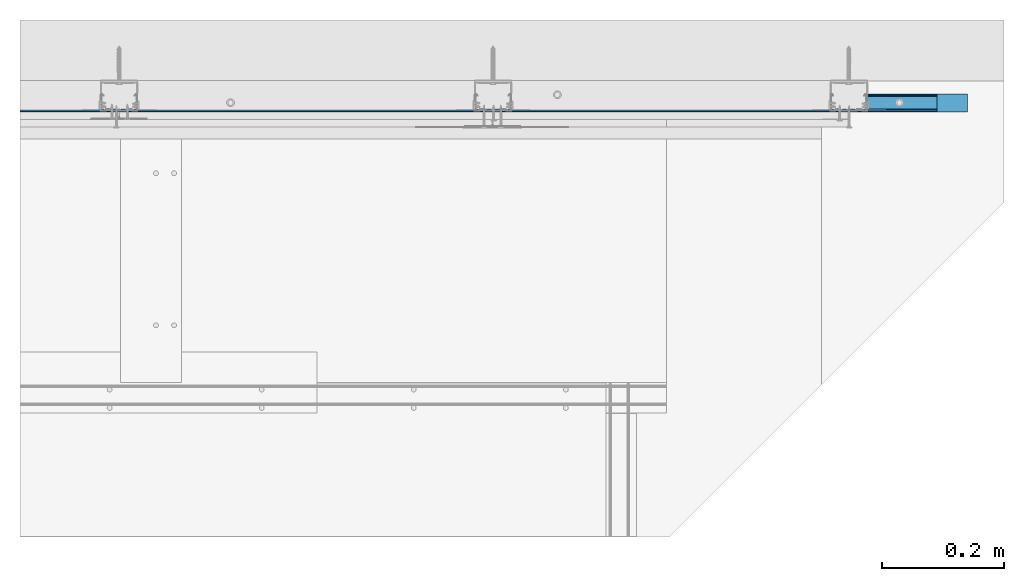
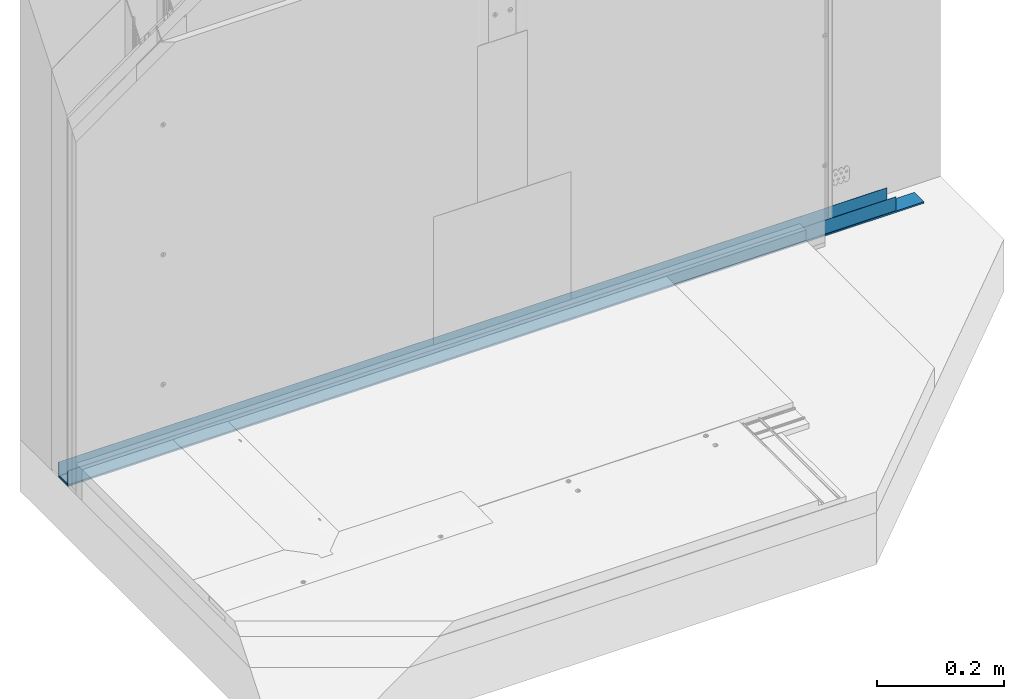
# One storey, part 15 of 47: 2 walls.
"""IFC2X3 building model written with IfcOpenShell, lengths in millimetres."""

import ifcopenshell
import ifcopenshell.guid

model = None  # the IFC model being written
_history = None  # IfcOwnerHistory: only IFC2X3 demands one
_inside = {}  # id of a spatial element -> (the spatial element, [elements in it])
_under = {}  # id of a project, library or spatial element -> (it, [spatial elements below it])
_declared = {}  # id of a project -> (the project, [libraries it declares])
_typed = {}  # id of a type object -> (the type object, [elements of that type])
_made_of = {}  # id of a material, layer set ... -> (it, [elements and type objects made of it])


def new_model(schema):
    """Start an empty IFC model of exactly this schema.

    Asked for "IFC4X3", IfcOpenShell would pick the latest addendum, in which some entities
    have other attributes; the version numbers below select the first issue.
    IFC2X3 requires an IfcOwnerHistory on every rooted entity: one is made here for all.
    """
    global model, _history
    if schema == "IFC4X3":
        model = ifcopenshell.file(schema_version=(4, 3, 0, 0))
    else:
        model = ifcopenshell.file(schema=schema)
    _inside.clear()
    _under.clear()
    _declared.clear()
    _typed.clear()
    _made_of.clear()
    _history = None
    if model.schema == "IFC2X3":
        org = make("IfcOrganization", Name="unknown")
        user = make(
            "IfcPersonAndOrganization",
            ThePerson=make("IfcPerson", FamilyName="unknown"),
            TheOrganization=org,
        )
        app = make(
            "IfcApplication",
            ApplicationDeveloper=org,
            Version="unknown",
            ApplicationFullName="unknown",
            ApplicationIdentifier="unknown",
        )
        _history = make(
            "IfcOwnerHistory",
            OwningUser=user,
            OwningApplication=app,
            ChangeAction="ADDED",
            CreationDate=0,
        )
    return model


def make(cls, **values):
    """One entity of the class cls with the attributes given. An attribute that is None is left unset."""
    return model.create_entity(
        cls, **{name: value for name, value in values.items() if value is not None}
    )


def entity(cls, *values):
    """Any entity or typed value of the class cls, its attributes in the order of the schema. None: left unset."""
    e = model.create_entity(cls)
    for i, value in enumerate(values):
        if value is not None:
            e[i] = value
    return e


def rooted(cls, **values):
    """An entity with a GlobalId (a new one), such as an element, a storey or a relation."""
    return make(cls, GlobalId=ifcopenshell.guid.new(), OwnerHistory=_history, **values)


def si_unit(unit_type, name, prefix=None):
    """IfcSIUnit, for example si_unit("LENGTHUNIT", "METRE", prefix="MILLI")."""
    return make("IfcSIUnit", UnitType=unit_type, Prefix=prefix, Name=name)


def converted_unit(unit_type, name, factor, base, dimensions=None, offset=None):
    """IfcConversionBasedUnit, such as the inch: factor (a typed value) times the base unit."""
    return make(
        "IfcConversionBasedUnit"
        if offset is None
        else "IfcConversionBasedUnitWithOffset",
        ConversionOffset=offset,
        Dimensions=None
        if dimensions is None
        else entity("IfcDimensionalExponents", *dimensions),
        UnitType=unit_type,
        Name=name,
        ConversionFactor=make(
            "IfcMeasureWithUnit", ValueComponent=factor, UnitComponent=base
        ),
    )


def assignment(units):
    """IfcUnitAssignment: the units of a project."""
    return None if units is None else make("IfcUnitAssignment", Units=units)


def point(xyz):
    """IfcCartesianPoint."""
    return None if xyz is None else make("IfcCartesianPoint", Coordinates=xyz)


def direction(xyz):
    """IfcDirection."""
    return None if xyz is None else make("IfcDirection", DirectionRatios=xyz)


def frame(location, z_axis=None, x_axis=None):
    """IfcAxis2Placement3D, a coordinate frame: its origin and axes. An axis left out is left unset."""
    return make(
        "IfcAxis2Placement3D",
        Location=point(location),
        Axis=direction(z_axis),
        RefDirection=direction(x_axis),
    )


def origin():
    """The frame at (0, 0, 0) with its axes left unset."""
    return frame((0.0, 0.0, 0.0))


def origin_with_axes():
    """The frame at (0, 0, 0) with the z axis (0, 0, 1) and the x axis (1, 0, 0) written out."""
    return frame((0.0, 0.0, 0.0), z_axis=(0.0, 0.0, 1.0), x_axis=(1.0, 0.0, 0.0))


def place(relative_to, where):
    """IfcLocalPlacement: puts the frame where relative to a parent placement (None: the world)."""
    return make(
        "IfcLocalPlacement", PlacementRelTo=relative_to, RelativePlacement=where
    )


def context(
    kind, dimensions, precision=None, world=None, true_north=None, identifier=None
):
    """IfcGeometricRepresentationContext, for example the 3D "Model" context."""
    return make(
        "IfcGeometricRepresentationContext",
        ContextIdentifier=identifier,
        ContextType=kind,
        CoordinateSpaceDimension=dimensions,
        Precision=precision,
        WorldCoordinateSystem=world,
        TrueNorth=true_north,
    )


def project(units=None, contexts=None):
    """IfcProject with its units and contexts."""
    return rooted(
        "IfcProject",
        Name="project",
        RepresentationContexts=contexts,
        UnitsInContext=assignment(units),
    )


def spatial(cls, under=None, at=None, **own):
    """A site, building, storey or space (cls), placed at a placement, below another one or the project."""
    s = rooted(cls, ObjectPlacement=at, **own)
    if under is not None:
        _under.setdefault(under.id(), (under, []))[1].append(s)
    return s


def faces_of(points, faces, orient=None, outer=None):
    """IfcFace entities. A face is a list of loops; a loop is a list of indices into points, from 0.

    orient and outer hold one flag for each loop. By default every Orientation is true, the
    first loop of a face is its IfcFaceOuterBound and the others are IfcFaceBound.
    """
    made = []
    for i, loops in enumerate(faces):
        bounds = []
        for j, loop in enumerate(loops):
            is_outer = j == 0 if outer is None else outer[i][j]
            bounds.append(
                make(
                    "IfcFaceOuterBound" if is_outer else "IfcFaceBound",
                    Bound=make("IfcPolyLoop", Polygon=[points[k] for k in loop]),
                    Orientation=True if orient is None else orient[i][j],
                )
            )
        made.append(make("IfcFace", Bounds=bounds))
    return made


def faceted_brep(points, faces, orient=None, outer=None, voids=None):
    """IfcFacetedBrep: a solid bounded by flat faces; with voids (closed shells), ...WithVoids."""
    shared = [point(p) for p in points]
    hull = make("IfcClosedShell", CfsFaces=faces_of(shared, faces, orient, outer))
    if voids is None:
        return make("IfcFacetedBrep", Outer=hull)
    return make(
        "IfcFacetedBrepWithVoids",
        Outer=hull,
        Voids=[
            make(cls, CfsFaces=faces_of(shared, fs, o, b)) for cls, fs, o, b in voids
        ],
    )


def shape(context_of_items, identifier, shape_type, items):
    """IfcShapeRepresentation: the items that make up one representation, for example the "Body"."""
    return make(
        "IfcShapeRepresentation",
        ContextOfItems=context_of_items,
        RepresentationIdentifier=identifier,
        RepresentationType=shape_type,
        Items=items,
    )


def made_of(thing, what):
    """Note that an element or type object is made of a material, layer set ...; save() writes the relation."""
    if what is not None:
        _made_of.setdefault(what.id(), (what, []))[1].append(thing)
    return thing


def element(
    cls,
    number,
    at=None,
    inside=None,
    cuts=None,
    type_object=None,
    material=None,
    context=None,
    identifier="Body",
    shape_type=None,
    held_by="IfcProductDefinitionShape",
    body=None,
    shapes=None,
    **own,
):
    """One element of the class cls, such as IfcWall. Its Tag is "e" and its number.

    at: its placement. inside: the storey or other place that contains it. cuts: it is an
    opening in that element (IfcRelVoidsElement). A single representation is given by context,
    identifier, shape_type and body (its items); several are given by shapes. held_by: the class
    of the entity that holds the representations. save() writes the other relations.
    """
    e = rooted(cls, Tag="e%d" % number, ObjectPlacement=at, **own)
    if body is not None:
        shapes = [shape(context, identifier, shape_type, body)]
    if shapes is not None:
        e.Representation = make(held_by, Representations=shapes)
    if inside is not None:
        _inside.setdefault(inside.id(), (inside, []))[1].append(e)
    if cuts is not None:
        rooted(
            "IfcRelVoidsElement", RelatingBuildingElement=cuts, RelatedOpeningElement=e
        )
    if type_object is not None:
        _typed.setdefault(type_object.id(), (type_object, []))[1].append(e)
    return made_of(e, material)


def aggregate(whole, parts):
    """IfcRelAggregates: a whole, such as a stair, and the parts it consists of."""
    return rooted("IfcRelAggregates", RelatingObject=whole, RelatedObjects=parts)


def save(model, path):
    """Write the relations noted so far, then the file.

    IfcRelAggregates (storeys below a building ...), IfcRelContainedInSpatialStructure (elements
    in a storey), IfcRelDefinesByType, IfcRelAssociatesMaterial and IfcRelDeclares: one each for
    every whole, place, type object, material and project.
    """
    for whole, parts in _under.values():
        aggregate(whole, parts)
    for where, things in _inside.values():
        rooted(
            "IfcRelContainedInSpatialStructure",
            RelatedElements=things,
            RelatingStructure=where,
        )
    for kind, things in _typed.values():
        rooted("IfcRelDefinesByType", RelatedObjects=things, RelatingType=kind)
    for what, things in _made_of.values():
        rooted("IfcRelAssociatesMaterial", RelatedObjects=things, RelatingMaterial=what)
    for by, libraries in _declared.values():
        rooted("IfcRelDeclares", RelatingContext=by, RelatedDefinitions=libraries)
    model.write(path)


model = new_model("IFC2X3")

# Units and contexts
model_context = context("Model", 3, precision=1e-05, world=origin(), true_north=direction((0.0, 1.0, 0.0)))
ifc_project = project(units=[si_unit("LENGTHUNIT", "METRE", prefix="MILLI"), si_unit("AREAUNIT", "SQUARE_METRE"), si_unit("VOLUMEUNIT", "CUBIC_METRE"), converted_unit("PLANEANGLEUNIT", "DEGREE", entity("IfcPlaneAngleMeasure", 0.01745), si_unit("PLANEANGLEUNIT", "RADIAN"), dimensions=[0, 0, 0, 0, 0, 0, 0]), si_unit("SOLIDANGLEUNIT", "STERADIAN"), si_unit("MASSUNIT", "GRAM"), si_unit("TIMEUNIT", "SECOND"), si_unit("THERMODYNAMICTEMPERATUREUNIT", "DEGREE_CELSIUS"), si_unit("LUMINOUSINTENSITYUNIT", "LUMEN")], contexts=[model_context])

# Site, building, storey
site_placement = place(None, origin_with_axes())
site = spatial("IfcSite", under=ifc_project, at=site_placement, Name="Default Site", CompositionType="ELEMENT")
building_placement = place(site_placement, origin_with_axes())
building = spatial("IfcBuilding", under=site, at=building_placement, Name="Default Building", CompositionType="ELEMENT")
storey_placement = place(building_placement, origin_with_axes())
storey = spatial("IfcBuildingStorey", under=building, at=storey_placement, Name="Default Building Storey", CompositionType="ELEMENT", Elevation=0.0)

# Walls
wall_1_placement = place(storey_placement, frame((5001.187254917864, 3469.792279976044, -108.5909742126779), z_axis=(-6.754789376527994e-14, -6.858158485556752e-13, 1.0), x_axis=(-1.0, -1.816065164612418e-15, -8.596431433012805e-14)))
element("IfcWall", 1, at=wall_1_placement, inside=storey, Name="Profil RIGIPS UD30 ULTRASTIL®", context=model_context, shape_type="Brep", body=[
    faceted_brep([(2876.162121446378, 1469.916032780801, 140.9749999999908), (2876.162121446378, 1469.366032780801, 140.9749999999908), (2876.162121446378, 1469.366032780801, 114.774999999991), (2876.162121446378, 1469.375882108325, 114.6498524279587), (2876.162121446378, 1469.405187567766, 114.5277864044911), (2876.162121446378, 1469.453227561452, 114.4118076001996), (2876.162121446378, 1469.518819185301, 114.3047717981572), (2876.162121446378, 1469.600347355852, 114.2093145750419), (2876.162121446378, 1469.695804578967, 114.1277864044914), (2876.162121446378, 1469.80284038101, 114.0621947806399), (2876.162121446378, 1469.918819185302, 114.0141547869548), (2876.162121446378, 1470.04088520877, 113.9848493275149), (2876.162121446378, 1470.166032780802, 113.9749999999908), (2876.162121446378, 1472.016032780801, 113.9749999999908), (2876.162121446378, 1472.163550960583, 113.9887186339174), (2876.162121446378, 1472.3060097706, 114.0294040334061), (2876.162121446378, 1472.438523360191, 114.0956608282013), (2876.162121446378, 1472.55654696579, 114.1852166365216), (2876.162121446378, 1472.6560327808, 114.2949999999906), (2876.162121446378, 1473.676032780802, 115.6549999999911), (2876.162121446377, 1473.775518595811, 115.7647833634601), (2876.162121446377, 1473.893542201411, 115.8543391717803), (2876.162121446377, 1474.026055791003, 115.9205959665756), (2876.162121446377, 1474.16851460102, 115.9612813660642), (2876.162121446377, 1474.316032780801, 115.9749999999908), (2876.162121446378, 1493.616032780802, 115.9749999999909), (2876.162121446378, 1493.763550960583, 115.9612813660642), (2876.162121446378, 1493.906009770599, 115.9205959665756), (2876.162121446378, 1494.03852336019, 115.8543391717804), (2876.162121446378, 1494.15654696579, 115.7647833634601), (2876.162121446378, 1494.256032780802, 115.6549999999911), (2876.162121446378, 1495.276032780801, 114.2949999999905), (2876.162121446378, 1495.375518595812, 114.1852166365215), (2876.162121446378, 1495.493542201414, 114.0956608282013), (2876.162121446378, 1495.626055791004, 114.0294040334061), (2876.162121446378, 1495.76851460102, 113.9887186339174), (2876.162121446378, 1495.916032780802, 113.9749999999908), (2876.162121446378, 1497.766032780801, 113.9749999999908), (2876.162121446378, 1497.891180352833, 113.9848493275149), (2876.162121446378, 1498.013246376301, 114.0141547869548), (2876.162121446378, 1498.129225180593, 114.0621947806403), (2876.162121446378, 1498.236260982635, 114.127786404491), (2876.162121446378, 1498.33171820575, 114.2093145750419), (2876.162121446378, 1498.413246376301, 114.3047717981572), (2876.162121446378, 1498.478838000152, 114.4118076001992), (2876.162121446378, 1498.526877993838, 114.5277864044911), (2876.162121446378, 1498.556183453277, 114.6498524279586), (2876.162121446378, 1498.566032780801, 114.774999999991), (2876.162121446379, 1498.566032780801, 140.9749999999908), (2876.162121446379, 1498.0160327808, 140.9749999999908), (2876.162121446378, 1498.0160327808, 114.774999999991), (2876.162121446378, 1498.012954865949, 114.7358913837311), (2876.162121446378, 1498.003796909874, 114.6977457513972), (2876.162121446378, 1497.988784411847, 114.661502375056), (2876.162121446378, 1497.968287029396, 114.6280536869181), (2876.162121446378, 1497.942809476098, 114.5982233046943), (2876.162121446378, 1497.912979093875, 114.5727457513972), (2876.162121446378, 1497.879530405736, 114.5522483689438), (2876.162121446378, 1497.843287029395, 114.5372358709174), (2876.162121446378, 1497.805141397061, 114.528077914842), (2876.162121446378, 1497.766032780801, 114.524999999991), (2876.162121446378, 1495.916032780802, 114.524999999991), (2876.162121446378, 1495.86993334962, 114.5292870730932), (2876.162121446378, 1495.82541497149, 114.5420012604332), (2876.162121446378, 1495.784004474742, 114.562706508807), (2876.162121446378, 1495.747122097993, 114.5906926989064), (2876.162121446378, 1495.716032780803, 114.6249999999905), (2876.162121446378, 1494.696032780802, 115.9849999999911), (2876.162121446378, 1494.528150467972, 116.1702594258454), (2876.162121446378, 1494.32898563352, 116.3213848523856), (2876.162121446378, 1494.105368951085, 116.4331931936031), (2876.162121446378, 1493.864969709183, 116.5018498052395), (2876.162121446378, 1493.616032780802, 116.5249999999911), (2876.162121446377, 1474.316032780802, 116.524999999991), (2876.162121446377, 1474.06709585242, 116.5018498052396), (2876.162121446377, 1473.826696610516, 116.4331931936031), (2876.162121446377, 1473.603079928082, 116.3213848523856), (2876.162121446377, 1473.403915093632, 116.1702594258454), (2876.162121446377, 1473.236032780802, 115.984999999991), (2876.162121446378, 1472.216032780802, 114.6249999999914), (2876.162121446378, 1472.184943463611, 114.5906926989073), (2876.162121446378, 1472.14806108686, 114.562706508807), (2876.162121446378, 1472.106650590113, 114.5420012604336), (2876.162121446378, 1472.062132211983, 114.5292870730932), (2876.162121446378, 1472.016032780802, 114.524999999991), (2876.162121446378, 1470.166032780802, 114.524999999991), (2876.162121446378, 1470.126924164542, 114.528077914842), (2876.162121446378, 1470.088778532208, 114.5372358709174), (2876.162121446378, 1470.052535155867, 114.5522483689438), (2876.162121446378, 1470.019086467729, 114.5727457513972), (2876.162121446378, 1469.989256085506, 114.5982233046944), (2876.162121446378, 1469.963778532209, 114.6280536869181), (2876.162121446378, 1469.943281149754, 114.661502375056), (2876.162121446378, 1469.928268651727, 114.6977457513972), (2876.162121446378, 1469.919110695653, 114.7358913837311), (2876.162121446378, 1469.916032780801, 114.774999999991), (1368.501210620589, 1469.366032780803, 114.7750000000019), (1368.50121062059, 1469.366032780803, 140.9750000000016), (1368.50121062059, 1469.916032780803, 140.9750000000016), (1368.501210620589, 1469.916032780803, 114.7750000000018), (1368.501210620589, 1469.919110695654, 114.7358913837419), (1368.501210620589, 1469.92826865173, 114.697745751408), (1368.501210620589, 1469.943281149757, 114.6615023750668), (1368.501210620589, 1469.963778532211, 114.6280536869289), (1368.501210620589, 1469.989256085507, 114.5982233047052), (1368.501210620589, 1470.019086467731, 114.572745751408), (1368.501210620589, 1470.052535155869, 114.5522483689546), (1368.501210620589, 1470.08877853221, 114.5372358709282), (1368.501210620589, 1470.126924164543, 114.5280779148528), (1368.501210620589, 1470.166032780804, 114.5250000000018), (1368.501210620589, 1472.016032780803, 114.5250000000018), (1368.501210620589, 1472.062132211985, 114.5292870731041), (1368.501210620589, 1472.106650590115, 114.5420012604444), (1368.501210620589, 1472.148061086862, 114.5627065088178), (1368.501210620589, 1472.184943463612, 114.5906926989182), (1368.501210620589, 1472.216032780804, 114.6250000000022), (1368.501210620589, 1473.236032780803, 115.9850000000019), (1368.501210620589, 1473.403915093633, 116.1702594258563), (1368.50121062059, 1473.603079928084, 116.3213848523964), (1368.50121062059, 1473.826696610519, 116.4331931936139), (1368.50121062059, 1474.067095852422, 116.5018498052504), (1368.50121062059, 1474.316032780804, 116.5250000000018), (1368.50121062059, 1493.616032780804, 116.5250000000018), (1368.50121062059, 1493.864969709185, 116.5018498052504), (1368.50121062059, 1494.105368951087, 116.4331931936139), (1368.50121062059, 1494.328985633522, 116.3213848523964), (1368.501210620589, 1494.528150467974, 116.1702594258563), (1368.501210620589, 1494.696032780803, 115.9850000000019), (1368.501210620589, 1495.716032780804, 114.6250000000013), (1368.501210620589, 1495.747122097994, 114.5906926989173), (1368.501210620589, 1495.784004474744, 114.5627065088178), (1368.501210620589, 1495.825414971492, 114.542001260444), (1368.501210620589, 1495.869933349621, 114.529287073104), (1368.501210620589, 1495.916032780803, 114.5250000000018), (1368.501210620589, 1497.766032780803, 114.5250000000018), (1368.501210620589, 1497.805141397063, 114.5280779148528), (1368.501210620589, 1497.843287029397, 114.5372358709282), (1368.501210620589, 1497.879530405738, 114.5522483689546), (1368.501210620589, 1497.912979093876, 114.572745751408), (1368.501210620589, 1497.9428094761, 114.5982233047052), (1368.501210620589, 1497.968287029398, 114.6280536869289), (1368.501210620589, 1497.98878441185, 114.6615023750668), (1368.501210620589, 1498.003796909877, 114.697745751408), (1368.501210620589, 1498.012954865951, 114.7358913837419), (1368.501210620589, 1498.016032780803, 114.7750000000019), (1368.50121062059, 1498.016032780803, 140.9750000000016), (1368.50121062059, 1498.566032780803, 140.9750000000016), (1368.501210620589, 1498.566032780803, 114.7750000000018), (1368.501210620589, 1498.556183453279, 114.6498524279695), (1368.501210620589, 1498.526877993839, 114.5277864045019), (1368.501210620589, 1498.478838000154, 114.41180760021), (1368.501210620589, 1498.413246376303, 114.304771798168), (1368.501210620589, 1498.331718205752, 114.2093145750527), (1368.501210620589, 1498.236260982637, 114.1277864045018), (1368.501210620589, 1498.129225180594, 114.0621947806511), (1368.501210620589, 1498.013246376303, 114.0141547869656), (1368.501210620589, 1497.891180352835, 113.9848493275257), (1368.501210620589, 1497.766032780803, 113.9750000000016), (1368.501210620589, 1495.916032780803, 113.9750000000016), (1368.501210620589, 1495.768514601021, 113.9887186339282), (1368.501210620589, 1495.626055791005, 114.0294040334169), (1368.501210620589, 1495.493542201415, 114.0956608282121), (1368.501210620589, 1495.375518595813, 114.1852166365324), (1368.501210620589, 1495.276032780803, 114.2950000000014), (1368.501210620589, 1494.256032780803, 115.6550000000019), (1368.501210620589, 1494.156546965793, 115.7647833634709), (1368.501210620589, 1494.038523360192, 115.8543391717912), (1368.501210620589, 1493.906009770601, 115.9205959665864), (1368.501210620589, 1493.763550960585, 115.9612813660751), (1368.501210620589, 1493.616032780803, 115.9750000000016), (1368.501210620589, 1474.316032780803, 115.9750000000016), (1368.501210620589, 1474.168514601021, 115.9612813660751), (1368.501210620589, 1474.026055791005, 115.9205959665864), (1368.501210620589, 1473.893542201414, 115.8543391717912), (1368.501210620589, 1473.775518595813, 115.7647833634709), (1368.501210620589, 1473.676032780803, 115.655000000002), (1368.501210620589, 1472.656032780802, 114.2950000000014), (1368.501210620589, 1472.556546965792, 114.1852166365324), (1368.501210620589, 1472.438523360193, 114.0956608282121), (1368.501210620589, 1472.306009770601, 114.0294040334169), (1368.501210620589, 1472.163550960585, 113.9887186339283), (1368.501210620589, 1472.016032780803, 113.9750000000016), (1368.501210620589, 1470.166032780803, 113.9750000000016), (1368.501210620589, 1470.040885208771, 113.9848493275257), (1368.501210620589, 1469.918819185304, 114.0141547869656), (1368.501210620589, 1469.802840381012, 114.0621947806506), (1368.501210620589, 1469.695804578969, 114.1277864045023), (1368.501210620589, 1469.600347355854, 114.2093145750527), (1368.501210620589, 1469.518819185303, 114.304771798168), (1368.501210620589, 1469.453227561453, 114.4118076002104), (1368.501210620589, 1469.405187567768, 114.5277864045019), (1368.501210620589, 1469.375882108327, 114.6498524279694)], [[[0, 1, 2, 3, 4, 5, 6, 7, 8, 9, 10, 11, 12, 13, 14, 15, 16, 17, 18, 19, 20, 21, 22, 23, 24, 25, 26, 27, 28, 29, 30, 31, 32, 33, 34, 35, 36, 37, 38, 39, 40, 41, 42, 43, 44, 45, 46, 47, 48, 49, 50, 51, 52, 53, 54, 55, 56, 57, 58, 59, 60, 61, 62, 63, 64, 65, 66, 67, 68, 69, 70, 71, 72, 73, 74, 75, 76, 77, 78, 79, 80, 81, 82, 83, 84, 85, 86, 87, 88, 89, 90, 91, 92, 93, 94, 95]], [[96, 97, 98, 99, 100, 101, 102, 103, 104, 105, 106, 107, 108, 109, 110, 111, 112, 113, 114, 115, 116, 117, 118, 119, 120, 121, 122, 123, 124, 125, 126, 127, 128, 129, 130, 131, 132, 133, 134, 135, 136, 137, 138, 139, 140, 141, 142, 143, 144, 145, 146, 147, 148, 149, 150, 151, 152, 153, 154, 155, 156, 157, 158, 159, 160, 161, 162, 163, 164, 165, 166, 167, 168, 169, 170, 171, 172, 173, 174, 175, 176, 177, 178, 179, 180, 181, 182, 183, 184, 185, 186, 187, 188, 189, 190, 191]], [[23, 171, 170, 24]], [[22, 172, 171, 23]], [[175, 174, 20, 19]], [[172, 22, 21, 173]], [[20, 174, 173, 21]], [[24, 170, 169, 25]], [[29, 165, 164, 30]], [[165, 29, 28, 166]], [[27, 167, 166, 28]], [[169, 168, 26, 25]], [[26, 168, 167, 27]], [[30, 164, 163, 31]], [[35, 159, 158, 36]], [[34, 160, 159, 35]], [[33, 32, 162, 161]], [[161, 160, 34, 33]], [[163, 162, 32, 31]], [[36, 158, 157, 37]], [[46, 45, 149, 148]], [[148, 147, 47, 46]], [[44, 150, 149, 45]], [[43, 42, 152, 151]], [[151, 150, 44, 43]], [[41, 40, 154, 153]], [[153, 152, 42, 41]], [[39, 155, 154, 40]], [[38, 37, 157, 156]], [[156, 155, 39, 38]], [[47, 147, 146, 48]], [[48, 146, 145, 49]], [[49, 145, 144, 50]], [[134, 60, 59, 135]], [[58, 136, 135, 59]], [[57, 137, 136, 58]], [[137, 57, 56, 138]], [[55, 139, 138, 56]], [[139, 55, 54, 140]], [[53, 141, 140, 54]], [[52, 142, 141, 53]], [[142, 52, 51, 143]], [[50, 144, 143, 51]], [[60, 134, 133, 61]], [[65, 129, 128, 66]], [[129, 65, 64, 130]], [[63, 131, 130, 64]], [[133, 132, 62, 61]], [[62, 132, 131, 63]], [[66, 128, 127, 67]], [[71, 123, 122, 72]], [[70, 69, 125, 124]], [[124, 123, 71, 70]], [[68, 126, 125, 69]], [[127, 126, 68, 67]], [[72, 122, 121, 73]], [[77, 117, 116, 78]], [[76, 118, 117, 77]], [[75, 74, 120, 119]], [[119, 118, 76, 75]], [[121, 120, 74, 73]], [[78, 116, 115, 79]], [[83, 111, 110, 84]], [[82, 112, 111, 83]], [[115, 114, 80, 79]], [[112, 82, 81, 113]], [[80, 114, 113, 81]], [[84, 110, 109, 85]], [[99, 95, 94, 100]], [[93, 101, 100, 94]], [[92, 102, 101, 93]], [[102, 92, 91, 103]], [[90, 104, 103, 91]], [[104, 90, 89, 105]], [[88, 106, 105, 89]], [[87, 107, 106, 88]], [[107, 87, 86, 108]], [[85, 109, 108, 86]], [[95, 99, 98, 0]], [[0, 98, 97, 1]], [[1, 97, 96, 2]], [[11, 10, 184, 183]], [[183, 182, 12, 11]], [[9, 185, 184, 10]], [[6, 5, 189, 188]], [[7, 6, 188, 187]], [[8, 7, 187, 186]], [[186, 185, 9, 8]], [[4, 190, 189, 5]], [[3, 2, 96, 191]], [[191, 190, 4, 3]], [[12, 182, 181, 13]], [[17, 177, 176, 18]], [[16, 15, 179, 178]], [[178, 177, 17, 16]], [[14, 180, 179, 15]], [[181, 180, 14, 13]], [[18, 176, 175, 19]]]),
])
wall_2_placement = place(storey_placement, frame((5813.09147362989, 3469.792279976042, -108.5909742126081), z_axis=(-6.754789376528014e-14, -6.858158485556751e-13, 1.0), x_axis=(-1.0, -1.816065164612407e-15, -8.596431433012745e-14)))
element("IfcWall", 2, at=wall_2_placement, inside=storey, Name="Taśma uszczelniająca piankowa RIGIPS", context=model_context, shape_type="Brep", body=[
    faceted_brep([(2130.050855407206, 1498.9660327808, 113.9750000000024), (2130.050855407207, 1498.9660327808, 110.9750000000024), (2130.050855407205, 1468.966032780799, 110.9750000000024), (2130.050855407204, 1468.9660327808, 113.9750000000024), (3688.066340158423, 1498.966032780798, 110.9750000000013), (3688.066340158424, 1498.966032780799, 113.9750000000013), (3688.066340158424, 1468.966032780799, 113.9750000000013), (3688.066340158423, 1468.966032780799, 110.9750000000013)], [[[0, 1, 2, 3]], [[4, 5, 6, 7]], [[5, 0, 3, 6]], [[6, 3, 2, 7]], [[7, 2, 1, 4]], [[4, 1, 0, 5]]]),
])

save(model, "model.ifc")
